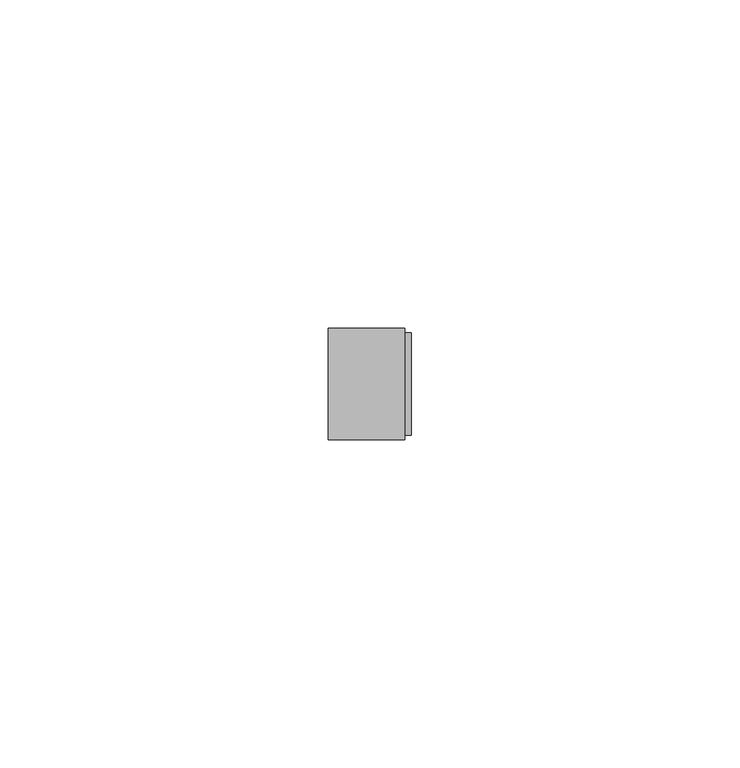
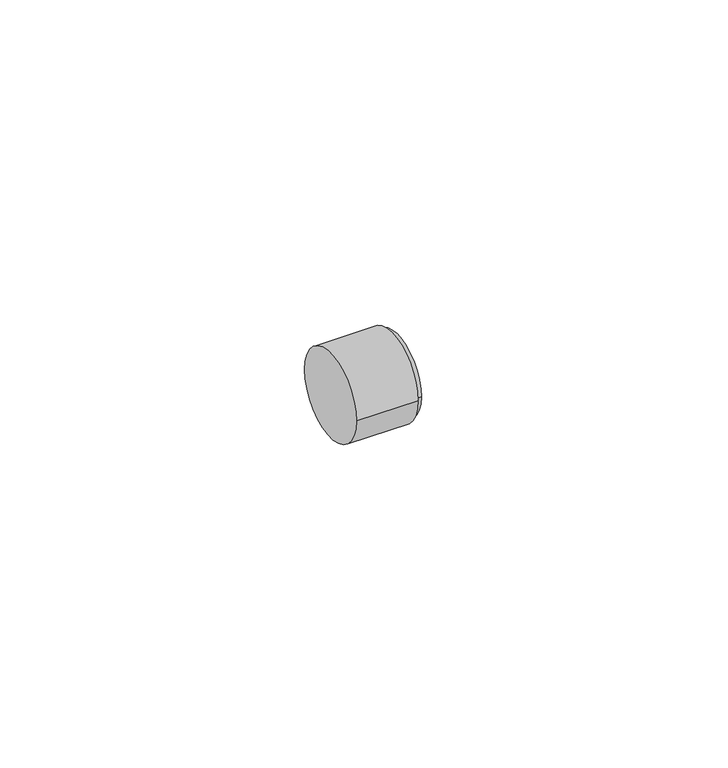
"""IFC4 building model written with IfcOpenShell, lengths in millimetres: pipe fitting geometry, Bucha de redução reta - Soldada - CU : Padrão."""

from ifc_helpers import new_model, si_unit, frame, origin, place, context, project, spatial, circle_curve, source, transform, mapped, element, save
from ifc_brep_helpers import plane_surface, cylinder_surface, advanced_brep


def pipe_fitting_bd571644(model_context):
    return source(origin(), model_context, "Body", "AdvancedBrep", [
        advanced_brep(
        [(0.0, -8.4937, 0.0), (0.0, 8.4937, 0.0), (11.6589, -8.4937, 0.0), (11.6589, 8.4937, 0.0), (11.6589, -7.835, 0.0), (11.6589, 7.835, 0.0), (12.6589, -7.835, 0.0), (12.6589, 7.835, 0.0)],
        [
            (0, 1, circle_curve(frame((0.0, 0.0, 0.0), z_axis=(-1.0, 0.0, 0.0), x_axis=(0.0, 1.0, 0.0)), 8.4937)),
            (1, 0, circle_curve(frame((0.0, 0.0, 0.0), z_axis=(-1.0, 0.0, 0.0), x_axis=(0.0, 1.0, 0.0)), 8.4937)),
            (2, 3, circle_curve(frame((11.6589, 0.0, 0.0), z_axis=(1.0, 0.0, 0.0), x_axis=(0.0, 1.0, 0.0)), 8.4937)),
            (3, 2, circle_curve(frame((11.6589, 0.0, 0.0), z_axis=(1.0, 0.0, 0.0), x_axis=(0.0, 1.0, 0.0)), 8.4937)),
            (4, 5, circle_curve(frame((11.6589, 0.0, 0.0), z_axis=(-1.0, 0.0, 0.0), x_axis=(0.0, 1.0, 0.0)), 7.835)),
            (5, 4, circle_curve(frame((11.6589, 0.0, 0.0), z_axis=(-1.0, 0.0, 0.0), x_axis=(0.0, 1.0, 0.0)), 7.835)),
            (0, 2),
            (3, 1),
            (6, 7, circle_curve(frame((12.6589, 0.0, 0.0), z_axis=(1.0, 0.0, 0.0), x_axis=(0.0, 1.0, 0.0)), 7.835)),
            (7, 6, circle_curve(frame((12.6589, 0.0, 0.0), z_axis=(1.0, 0.0, 0.0), x_axis=(0.0, 1.0, 0.0)), 7.835)),
            (7, 5),
            (4, 6),
        ],
        [
            plane_surface(frame((0.0, 0.0, 0.0), z_axis=(-1.0, 0.0, 0.0), x_axis=(0.0, 0.0, 1.0))),
            plane_surface(frame((11.6589, 0.0, 0.0), z_axis=(1.0, 0.0, 0.0), x_axis=(0.0, 0.0, 1.0))),
            cylinder_surface(frame((0.0, 0.0, 0.0), z_axis=(-1.0, 0.0, 0.0), x_axis=(0.0, 1.0, 0.0)), 8.4937),
            plane_surface(frame((12.6589, 0.0, 0.0), z_axis=(1.0, 0.0, 0.0), x_axis=(0.0, 0.0, 1.0))),
            cylinder_surface(frame((11.6589, 0.0, 0.0), z_axis=(-1.0, 0.0, 0.0), x_axis=(0.0, 1.0, 0.0)), 7.835),
        ],
        [
            (0, [[1, 2]]),
            (1, [[3, 4], [5, 6]]),
            (2, [[-1, 7, -4, 8]]),
            (2, [[-2, -8, -3, -7]]),
            (3, [[9, 10]]),
            (4, [[-10, 11, -5, 12]]),
            (4, [[-9, -12, -6, -11]]),
        ],
    ),
    ])


if __name__ == "__main__":
    model = new_model("IFC4")
    model_context = context("Model", 3, world=origin())
    ifc_project = project(units=[si_unit("LENGTHUNIT", "METRE", prefix="MILLI")], contexts=[model_context])
    site = spatial("IfcSite", under=ifc_project)
    building = spatial("IfcBuilding", under=site)
    placement = place(None, origin())
    pipe_fitting_shape = pipe_fitting_bd571644(model_context)
    element("IfcPipeFitting", 1, ObjectType="Bucha de redução reta - Soldada - CU : Padrão", at=placement, inside=building, context=model_context, shape_type="MappedRepresentation", body=[
        mapped(pipe_fitting_shape, transform((0.0, 0.0, 0.0), x_axis=(1.0, 0.0, 0.0), y_axis=(0.0, 1.0, 0.0), z_axis=(0.0, 0.0, 1.0))),
    ])
    save(model, "model.ifc")
